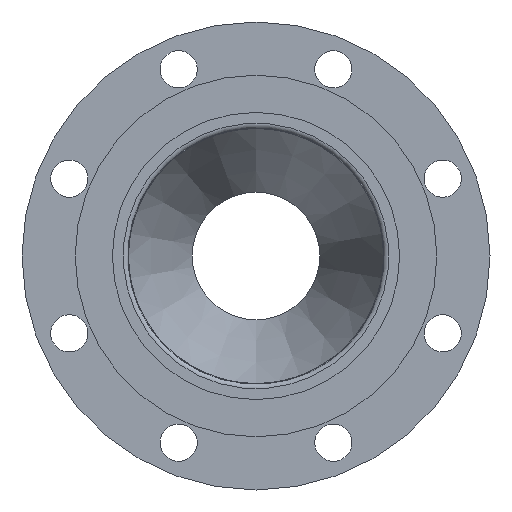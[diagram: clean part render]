
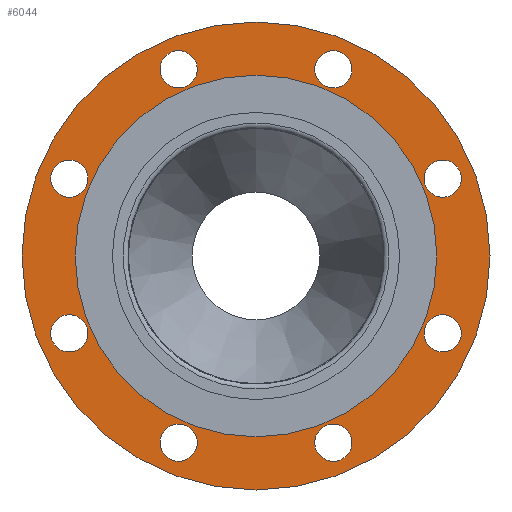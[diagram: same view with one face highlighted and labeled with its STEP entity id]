
A CAD part, front view. The second image highlights one B-rep face of the part: STEP entity #6044.
In plain terms, the highlighted planar face has unit normal (0, -1, 0) as drawn and (0, 1, 0) by its records, which use the part's own axes.
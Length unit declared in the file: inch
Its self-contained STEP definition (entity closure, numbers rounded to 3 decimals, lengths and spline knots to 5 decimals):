
#5705=CARTESIAN_POINT('',(-1.50839,0.6875,4.69779));
#5706=VERTEX_POINT('',#5705);
#5707=CARTESIAN_POINT('',(-1.81775,0.6875,4.38843));
#5708=DIRECTION('',(0.0,-1.0,0.0));
#5709=DIRECTION('',(0.707,0.0,0.707));
#5710=AXIS2_PLACEMENT_3D('',#5707,#5708,#5709);
#5711=CIRCLE('',#5710,0.4375);
#5712=EDGE_CURVE('',#5706,#5706,#5711,.T.);
#5733=CARTESIAN_POINT('',(-4.38843,0.6875,2.25525));
#5734=VERTEX_POINT('',#5733);
#5735=CARTESIAN_POINT('',(-4.38843,0.6875,1.81775));
#5736=DIRECTION('',(0.0,-1.0,0.0));
#5737=DIRECTION('',(0.0,0.0,1.0));
#5738=AXIS2_PLACEMENT_3D('',#5735,#5736,#5737);
#5739=CIRCLE('',#5738,0.4375);
#5740=EDGE_CURVE('',#5734,#5734,#5739,.T.);
#5761=CARTESIAN_POINT('',(-4.69779,0.6875,-1.50839));
#5762=VERTEX_POINT('',#5761);
#5763=CARTESIAN_POINT('',(-4.38843,0.6875,-1.81775));
#5764=DIRECTION('',(0.0,-1.0,0.0));
#5765=DIRECTION('',(-0.707,0.0,0.707));
#5766=AXIS2_PLACEMENT_3D('',#5763,#5764,#5765);
#5767=CIRCLE('',#5766,0.4375);
#5768=EDGE_CURVE('',#5762,#5762,#5767,.T.);
#5789=CARTESIAN_POINT('',(-2.25525,0.6875,-4.38843));
#5790=VERTEX_POINT('',#5789);
#5791=CARTESIAN_POINT('',(-1.81775,0.6875,-4.38843));
#5792=DIRECTION('',(0.0,-1.0,0.0));
#5793=DIRECTION('',(-1.0,0.0,0.0));
#5794=AXIS2_PLACEMENT_3D('',#5791,#5792,#5793);
#5795=CIRCLE('',#5794,0.4375);
#5796=EDGE_CURVE('',#5790,#5790,#5795,.T.);
#5817=CARTESIAN_POINT('',(1.50839,0.6875,-4.69779));
#5818=VERTEX_POINT('',#5817);
#5819=CARTESIAN_POINT('',(1.81775,0.6875,-4.38843));
#5820=DIRECTION('',(0.0,-1.0,0.0));
#5821=DIRECTION('',(-0.707,0.0,-0.707));
#5822=AXIS2_PLACEMENT_3D('',#5819,#5820,#5821);
#5823=CIRCLE('',#5822,0.4375);
#5824=EDGE_CURVE('',#5818,#5818,#5823,.T.);
#5845=CARTESIAN_POINT('',(4.38843,0.6875,-2.25525));
#5846=VERTEX_POINT('',#5845);
#5847=CARTESIAN_POINT('',(4.38843,0.6875,-1.81775));
#5848=DIRECTION('',(0.0,-1.0,0.0));
#5849=DIRECTION('',(0.0,0.0,-1.0));
#5850=AXIS2_PLACEMENT_3D('',#5847,#5848,#5849);
#5851=CIRCLE('',#5850,0.4375);
#5852=EDGE_CURVE('',#5846,#5846,#5851,.T.);
#5873=CARTESIAN_POINT('',(4.69779,0.6875,1.50839));
#5874=VERTEX_POINT('',#5873);
#5875=CARTESIAN_POINT('',(4.38843,0.6875,1.81775));
#5876=DIRECTION('',(0.0,-1.0,0.0));
#5877=DIRECTION('',(0.707,0.0,-0.707));
#5878=AXIS2_PLACEMENT_3D('',#5875,#5876,#5877);
#5879=CIRCLE('',#5878,0.4375);
#5880=EDGE_CURVE('',#5874,#5874,#5879,.T.);
#5901=CARTESIAN_POINT('',(2.25525,0.6875,4.38843));
#5902=VERTEX_POINT('',#5901);
#5903=CARTESIAN_POINT('',(1.81775,0.6875,4.38843));
#5904=DIRECTION('',(0.0,-1.0,0.0));
#5905=DIRECTION('',(1.0,0.0,0.0));
#5906=AXIS2_PLACEMENT_3D('',#5903,#5904,#5905);
#5907=CIRCLE('',#5906,0.4375);
#5908=EDGE_CURVE('',#5902,#5902,#5907,.T.);
#5929=CARTESIAN_POINT('',(4.25,0.6875,0.));
#5930=VERTEX_POINT('',#5929);
#5931=CARTESIAN_POINT('',(0.0,0.6875,0.0));
#5932=DIRECTION('',(0.0,-1.0,0.0));
#5933=DIRECTION('',(-1.0,0.0,0.0));
#5934=AXIS2_PLACEMENT_3D('',#5931,#5932,#5933);
#5935=CIRCLE('',#5934,4.25);
#5936=EDGE_CURVE('',#5930,#5930,#5935,.T.);
#5986=CARTESIAN_POINT('',(-5.5,0.6875,0.));
#5987=VERTEX_POINT('',#5986);
#5988=CARTESIAN_POINT('',(0.0,0.6875,0.0));
#5989=DIRECTION('',(0.0,-1.0,0.0));
#5990=DIRECTION('',(1.0,0.0,0.0));
#5991=AXIS2_PLACEMENT_3D('',#5988,#5989,#5990);
#5992=CIRCLE('',#5991,5.5);
#5993=EDGE_CURVE('',#5987,#5987,#5992,.T.);
#6009=CARTESIAN_POINT('',(0.0,0.6875,0.0));
#6010=DIRECTION('',(0.0,-1.0,0.0));
#6011=DIRECTION('',(0.0,0.0,-1.0));
#6012=AXIS2_PLACEMENT_3D('',#6009,#6010,#6011);
#6013=PLANE('',#6012);
#6014=ORIENTED_EDGE('',*,*,#5993,.F.);
#6015=EDGE_LOOP('',(#6014));
#6016=FACE_OUTER_BOUND('',#6015,.T.);
#6017=ORIENTED_EDGE('',*,*,#5712,.T.);
#6018=EDGE_LOOP('',(#6017));
#6019=FACE_BOUND('',#6018,.T.);
#6020=ORIENTED_EDGE('',*,*,#5740,.T.);
#6021=EDGE_LOOP('',(#6020));
#6022=FACE_BOUND('',#6021,.T.);
#6023=ORIENTED_EDGE('',*,*,#5768,.T.);
#6024=EDGE_LOOP('',(#6023));
#6025=FACE_BOUND('',#6024,.T.);
#6026=ORIENTED_EDGE('',*,*,#5796,.T.);
#6027=EDGE_LOOP('',(#6026));
#6028=FACE_BOUND('',#6027,.T.);
#6029=ORIENTED_EDGE('',*,*,#5824,.T.);
#6030=EDGE_LOOP('',(#6029));
#6031=FACE_BOUND('',#6030,.T.);
#6032=ORIENTED_EDGE('',*,*,#5852,.T.);
#6033=EDGE_LOOP('',(#6032));
#6034=FACE_BOUND('',#6033,.T.);
#6035=ORIENTED_EDGE('',*,*,#5880,.T.);
#6036=EDGE_LOOP('',(#6035));
#6037=FACE_BOUND('',#6036,.T.);
#6038=ORIENTED_EDGE('',*,*,#5908,.T.);
#6039=EDGE_LOOP('',(#6038));
#6040=FACE_BOUND('',#6039,.T.);
#6041=ORIENTED_EDGE('',*,*,#5936,.T.);
#6042=EDGE_LOOP('',(#6041));
#6043=FACE_BOUND('',#6042,.T.);
#6044=ADVANCED_FACE('',(#6016,#6019,#6022,#6025,#6028,#6031,#6034,#6037,#6040,#6043),#6013,.F.);
